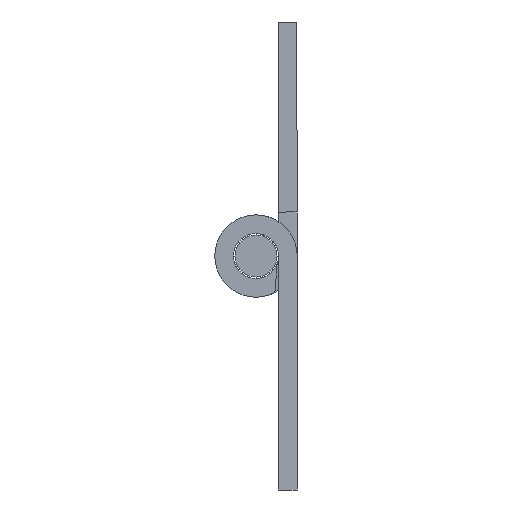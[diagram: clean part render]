
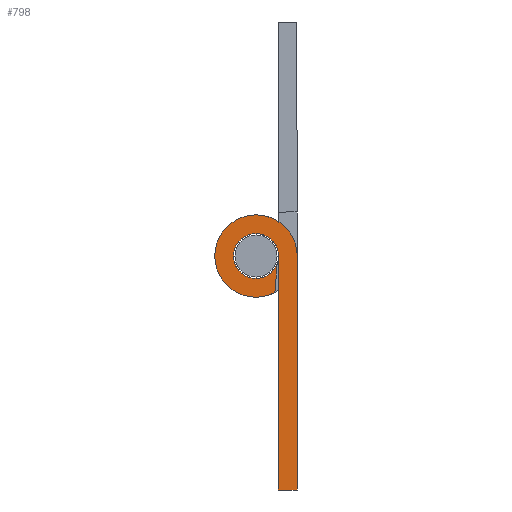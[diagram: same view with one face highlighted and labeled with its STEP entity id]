
A CAD part, left-side view. The second image highlights one B-rep face of the part: STEP entity #798.
In plain terms, the highlighted planar face has unit normal (-1, 0, 0).
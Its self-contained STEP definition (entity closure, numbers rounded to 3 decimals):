
#2 = EDGE_CURVE ( 'NONE', #1862, #1486, #70, .T. ) ;
#32 = CARTESIAN_POINT ( 'NONE',  ( -37.5, 2.141, -0.812 ) ) ;
#70 = LINE ( 'NONE', #2165, #1563 ) ;
#72 = EDGE_CURVE ( 'NONE', #1486, #1142, #2356, .T. ) ;
#85 = DIRECTION ( 'NONE',  ( 0., 1., 0. ) ) ;
#95 = DIRECTION ( 'NONE',  ( 1., 0., 0. ) ) ;
#144 = DIRECTION ( 'NONE',  ( 0., 0., -1. ) ) ;
#152 = CARTESIAN_POINT ( 'NONE',  ( -37.5, 4.4, 4.4 ) ) ;
#264 = DIRECTION ( 'NONE',  ( 0., 0.001, 1. ) ) ;
#286 = VERTEX_POINT ( 'NONE', #2088 ) ;
#420 = ORIENTED_EDGE ( 'NONE', *, *, #72, .F. ) ;
#432 = EDGE_CURVE ( 'NONE', #286, #2091, #582, .T. ) ;
#454 = ORIENTED_EDGE ( 'NONE', *, *, #2, .F. ) ;
#479 = LINE ( 'NONE', #2371, #2078 ) ;
#507 = CARTESIAN_POINT ( 'NONE',  ( -37.5, 0., 0. ) ) ;
#518 = EDGE_CURVE ( 'NONE', #2091, #1600, #924, .T. ) ;
#529 = VECTOR ( 'NONE', #264, 1000. ) ;
#565 = ORIENTED_EDGE ( 'NONE', *, *, #1772, .F. ) ;
#582 = CIRCLE ( 'NONE', #2135, 4.4 ) ;
#667 = ORIENTED_EDGE ( 'NONE', *, *, #518, .F. ) ;
#681 = EDGE_CURVE ( 'NONE', #2619, #980, #777, .T. ) ;
#690 = FACE_OUTER_BOUND ( 'NONE', #1474, .T. ) ;
#711 = CIRCLE ( 'NONE', #1356, 2.4 ) ;
#777 = CIRCLE ( 'NONE', #1025, 2.4 ) ;
#798 = ADVANCED_FACE ( 'NONE', ( #690 ), #1895, .F. ) ;
#840 = VERTEX_POINT ( 'NONE', #3010 ) ;
#879 = DIRECTION ( 'NONE',  ( -1., 0., 0. ) ) ;
#924 = CIRCLE ( 'NONE', #1759, 4.4 ) ;
#980 = VERTEX_POINT ( 'NONE', #1951 ) ;
#981 = CARTESIAN_POINT ( 'NONE',  ( -37.5, 0., 0. ) ) ;
#986 = DIRECTION ( 'NONE',  ( 1., 0., 0. ) ) ;
#1014 = ORIENTED_EDGE ( 'NONE', *, *, #2933, .F. ) ;
#1025 = AXIS2_PLACEMENT_3D ( 'NONE', #1373, #2038, #144 ) ;
#1037 = CARTESIAN_POINT ( 'NONE',  ( -37.5, 4.4, 0. ) ) ;
#1050 = EDGE_CURVE ( 'NONE', #840, #286, #2044, .T. ) ;
#1114 = VERTEX_POINT ( 'NONE', #32 ) ;
#1142 = VERTEX_POINT ( 'NONE', #2115 ) ;
#1190 = DIRECTION ( 'NONE',  ( 0., 0., -1. ) ) ;
#1249 = LINE ( 'NONE', #2211, #2103 ) ;
#1288 = CARTESIAN_POINT ( 'NONE',  ( -37.5, 4.4, 2.4 ) ) ;
#1299 = DIRECTION ( 'NONE',  ( 0., 0., -1. ) ) ;
#1304 = CIRCLE ( 'NONE', #1973, 2.4 ) ;
#1356 = AXIS2_PLACEMENT_3D ( 'NONE', #1505, #1744, #2434 ) ;
#1373 = CARTESIAN_POINT ( 'NONE',  ( -37.5, 4.4, 0. ) ) ;
#1396 = EDGE_CURVE ( 'NONE', #980, #1114, #1304, .T. ) ;
#1474 = EDGE_LOOP ( 'NONE', ( #2706, #2344, #1556, #1514, #565, #1014, #420, #454, #2784, #667, #2865 ) ) ;
#1486 = VERTEX_POINT ( 'NONE', #1817 ) ;
#1505 = CARTESIAN_POINT ( 'NONE',  ( -37.5, 4.4, 0. ) ) ;
#1514 = ORIENTED_EDGE ( 'NONE', *, *, #681, .F. ) ;
#1556 = ORIENTED_EDGE ( 'NONE', *, *, #1396, .F. ) ;
#1563 = VECTOR ( 'NONE', #85, 1000. ) ;
#1600 = VERTEX_POINT ( 'NONE', #981 ) ;
#1649 = LINE ( 'NONE', #507, #1911 ) ;
#1653 = EDGE_CURVE ( 'NONE', #1114, #840, #479, .T. ) ;
#1669 = DIRECTION ( 'NONE',  ( 0., 0., -1. ) ) ;
#1744 = DIRECTION ( 'NONE',  ( -1., 0., 0. ) ) ;
#1750 = CARTESIAN_POINT ( 'NONE',  ( -37.5, 4.4, 0. ) ) ;
#1759 = AXIS2_PLACEMENT_3D ( 'NONE', #1037, #2868, #1299 ) ;
#1772 = EDGE_CURVE ( 'NONE', #2692, #2619, #711, .T. ) ;
#1817 = CARTESIAN_POINT ( 'NONE',  ( -37.5, 2., -25. ) ) ;
#1862 = VERTEX_POINT ( 'NONE', #2029 ) ;
#1863 = CARTESIAN_POINT ( 'NONE',  ( -37.5, 4.4, 0. ) ) ;
#1895 = PLANE ( 'NONE',  #2634 ) ;
#1908 = DIRECTION ( 'NONE',  ( 0., 0., -1. ) ) ;
#1911 = VECTOR ( 'NONE', #1190, 1000. ) ;
#1951 = CARTESIAN_POINT ( 'NONE',  ( -37.5, 4.4, -2.4 ) ) ;
#1956 = CARTESIAN_POINT ( 'NONE',  ( -37.5, 4.4, 0. ) ) ;
#1973 = AXIS2_PLACEMENT_3D ( 'NONE', #2326, #879, #2764 ) ;
#2029 = CARTESIAN_POINT ( 'NONE',  ( -37.5, 0., -25. ) ) ;
#2038 = DIRECTION ( 'NONE',  ( -1., 0., 0. ) ) ;
#2044 = CIRCLE ( 'NONE', #2389, 4.4 ) ;
#2078 = VECTOR ( 'NONE', #2386, 1000. ) ;
#2088 = CARTESIAN_POINT ( 'NONE',  ( -37.5, 4.4, -4.4 ) ) ;
#2091 = VERTEX_POINT ( 'NONE', #152 ) ;
#2103 = VECTOR ( 'NONE', #2396, 1000. ) ;
#2115 = CARTESIAN_POINT ( 'NONE',  ( -37.5, 2.018, 0.01 ) ) ;
#2135 = AXIS2_PLACEMENT_3D ( 'NONE', #1956, #95, #2902 ) ;
#2165 = CARTESIAN_POINT ( 'NONE',  ( -37.5, 0., -25. ) ) ;
#2211 = CARTESIAN_POINT ( 'NONE',  ( -37.5, 2., 0. ) ) ;
#2304 = CARTESIAN_POINT ( 'NONE',  ( -37.5, 2., 0. ) ) ;
#2326 = CARTESIAN_POINT ( 'NONE',  ( -37.5, 4.4, 0. ) ) ;
#2330 = DIRECTION ( 'NONE',  ( 1., 0., 0. ) ) ;
#2344 = ORIENTED_EDGE ( 'NONE', *, *, #1653, .F. ) ;
#2356 = LINE ( 'NONE', #2385, #529 ) ;
#2363 = EDGE_CURVE ( 'NONE', #1600, #1862, #1649, .T. ) ;
#2371 = CARTESIAN_POINT ( 'NONE',  ( -37.5, 2.38, -3.909 ) ) ;
#2385 = CARTESIAN_POINT ( 'NONE',  ( -37.5, 2., -25. ) ) ;
#2386 = DIRECTION ( 'NONE',  ( 0., 0.077, -0.997 ) ) ;
#2389 = AXIS2_PLACEMENT_3D ( 'NONE', #1750, #986, #1908 ) ;
#2396 = DIRECTION ( 'NONE',  ( 0., -0.879, -0.477 ) ) ;
#2434 = DIRECTION ( 'NONE',  ( 0., 0., -1. ) ) ;
#2619 = VERTEX_POINT ( 'NONE', #1288 ) ;
#2634 = AXIS2_PLACEMENT_3D ( 'NONE', #1863, #2330, #1669 ) ;
#2692 = VERTEX_POINT ( 'NONE', #2304 ) ;
#2706 = ORIENTED_EDGE ( 'NONE', *, *, #1050, .F. ) ;
#2764 = DIRECTION ( 'NONE',  ( 0., 0., -1. ) ) ;
#2784 = ORIENTED_EDGE ( 'NONE', *, *, #2363, .F. ) ;
#2865 = ORIENTED_EDGE ( 'NONE', *, *, #432, .F. ) ;
#2868 = DIRECTION ( 'NONE',  ( 1., 0., 0. ) ) ;
#2902 = DIRECTION ( 'NONE',  ( 0., 0., -1. ) ) ;
#2933 = EDGE_CURVE ( 'NONE', #1142, #2692, #1249, .T. ) ;
#3010 = CARTESIAN_POINT ( 'NONE',  ( -37.5, 2.38, -3.909 ) ) ;
